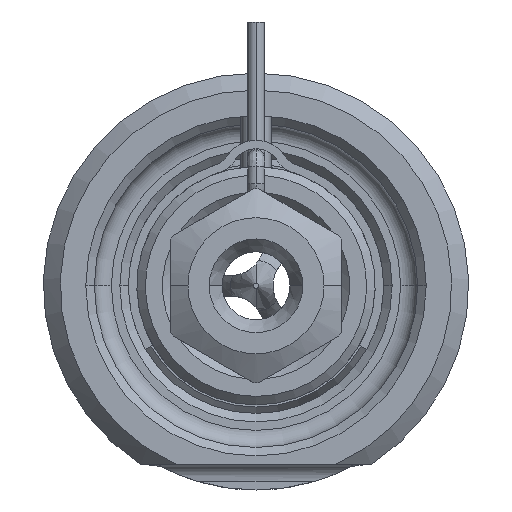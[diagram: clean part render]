
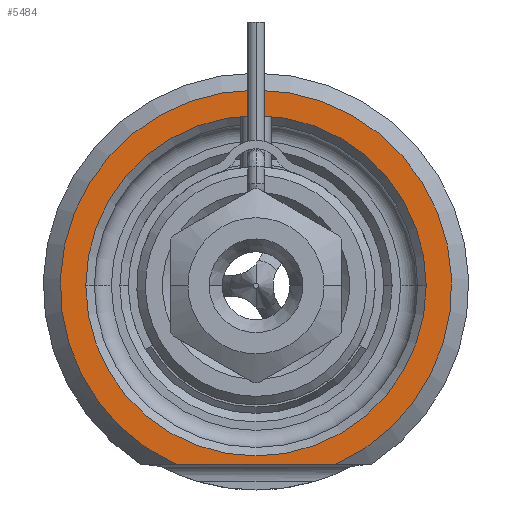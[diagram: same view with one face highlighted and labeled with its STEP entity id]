
A CAD part, front view. The second image highlights one B-rep face of the part: STEP entity #5484.
In plain terms, the highlighted planar face has unit normal (0, -1, 0).
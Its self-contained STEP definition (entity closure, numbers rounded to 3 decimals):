
#1802=DIRECTION('',(1.,0.,0.));
#1803=VECTOR('',#1802,9.381);
#1804=CARTESIAN_POINT('',(-4.69,0.,-10.5));
#1805=LINE('',#1804,#1803);
#1806=CARTESIAN_POINT('',(0.,0.,0.));
#1807=DIRECTION('',(0.,1.,0.));
#1808=DIRECTION('',(-1.,0.,0.));
#1809=AXIS2_PLACEMENT_3D('',#1806,#1807,#1808);
#1811=CARTESIAN_POINT('',(0.,0.,0.));
#1812=DIRECTION('',(0.,1.,0.));
#1813=DIRECTION('',(1.,0.,0.));
#1814=AXIS2_PLACEMENT_3D('',#1811,#1812,#1813);
#1885=CARTESIAN_POINT('',(0.,0.,0.));
#1886=DIRECTION('',(0.,-1.,0.));
#1887=DIRECTION('',(0.408,0.,-0.913));
#1888=AXIS2_PLACEMENT_3D('',#1885,#1886,#1887);
#3193=CARTESIAN_POINT('',(-10.,0.,0.));
#3194=CARTESIAN_POINT('',(10.,0.,0.));
#3195=VERTEX_POINT('',#3193);
#3196=VERTEX_POINT('',#3194);
#3237=CARTESIAN_POINT('',(-4.69,0.,-10.5));
#3238=CARTESIAN_POINT('',(4.69,0.,-10.5));
#3239=VERTEX_POINT('',#3237);
#3240=VERTEX_POINT('',#3238);
#5468=CARTESIAN_POINT('',(0.,0.,0.));
#5469=DIRECTION('',(0.,-1.,0.));
#5470=DIRECTION('',(1.,0.,0.));
#5471=AXIS2_PLACEMENT_3D('',#5468,#5469,#5470);
#5472=PLANE('',#5471);
#5474=ORIENTED_EDGE('',*,*,#5473,.F.);
#5476=ORIENTED_EDGE('',*,*,#5475,.F.);
#5477=EDGE_LOOP('',(#5474,#5476));
#5478=FACE_OUTER_BOUND('',#5477,.F.);
#5479=ORIENTED_EDGE('',*,*,#5458,.F.);
#5481=ORIENTED_EDGE('',*,*,#5480,.F.);
#5482=EDGE_LOOP('',(#5479,#5481));
#5483=FACE_BOUND('',#5482,.F.);
#5484=ADVANCED_FACE('',(#5478,#5483),#5472,.T.);
#1810=CIRCLE('',#1809,10.);
#1815=CIRCLE('',#1814,10.);
#1889=CIRCLE('',#1888,11.5);
#5458=EDGE_CURVE('',#3195,#3196,#1810,.T.);
#5473=EDGE_CURVE('',#3239,#3240,#1805,.T.);
#5475=EDGE_CURVE('',#3240,#3239,#1889,.T.);
#5480=EDGE_CURVE('',#3196,#3195,#1815,.T.);
